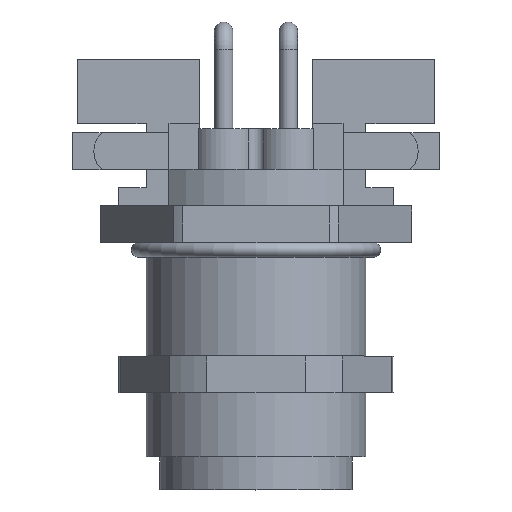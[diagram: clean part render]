
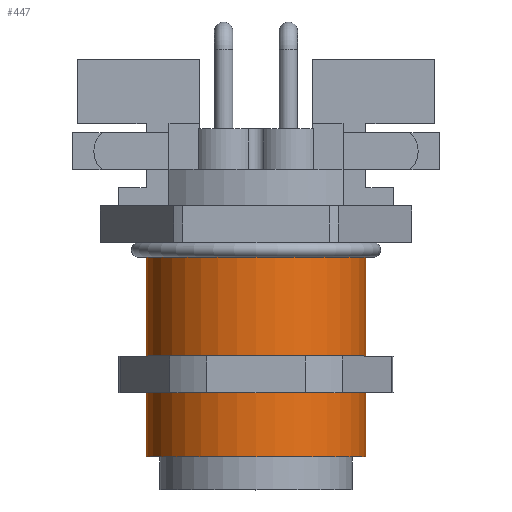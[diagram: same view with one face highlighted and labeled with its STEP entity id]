
A CAD part, top view. The second image highlights one B-rep face of the part: STEP entity #447.
In plain terms, the highlighted cylindrical face has radius 6 mm (diameter 12 mm), a full revolution.
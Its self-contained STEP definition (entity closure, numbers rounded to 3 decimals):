
#84=CARTESIAN_POINT('',(0.0,-2.4,6.));
#85=VERTEX_POINT('',#84);
#86=CARTESIAN_POINT('',(0.0,-2.4,0.0));
#87=DIRECTION('',(0.0,1.0,0.0));
#88=DIRECTION('',(0.0,0.0,1.0));
#89=AXIS2_PLACEMENT_3D('',#86,#87,#88);
#90=CIRCLE('',#89,6.);
#91=EDGE_CURVE('',#85,#85,#90,.T.);
#428=CARTESIAN_POINT('',(0.0,-8.05,0.0));
#429=DIRECTION('',(0.0,1.0,0.0));
#430=DIRECTION('',(0.0,0.0,1.0));
#431=AXIS2_PLACEMENT_3D('',#428,#429,#430);
#432=CYLINDRICAL_SURFACE('',#431,6.);
#433=ORIENTED_EDGE('',*,*,#91,.F.);
#434=EDGE_LOOP('',(#433));
#435=FACE_OUTER_BOUND('',#434,.T.);
#436=CARTESIAN_POINT('',(0.,-13.7,-6.));
#437=VERTEX_POINT('',#436);
#438=CARTESIAN_POINT('',(0.0,-13.7,0.0));
#439=DIRECTION('',(0.0,1.0,0.0));
#440=DIRECTION('',(0.0,0.0,1.0));
#441=AXIS2_PLACEMENT_3D('',#438,#439,#440);
#442=CIRCLE('',#441,6.);
#443=EDGE_CURVE('',#437,#437,#442,.T.);
#444=ORIENTED_EDGE('',*,*,#443,.T.);
#445=EDGE_LOOP('',(#444));
#446=FACE_BOUND('',#445,.T.);
#447=ADVANCED_FACE('',(#435,#446),#432,.T.);
